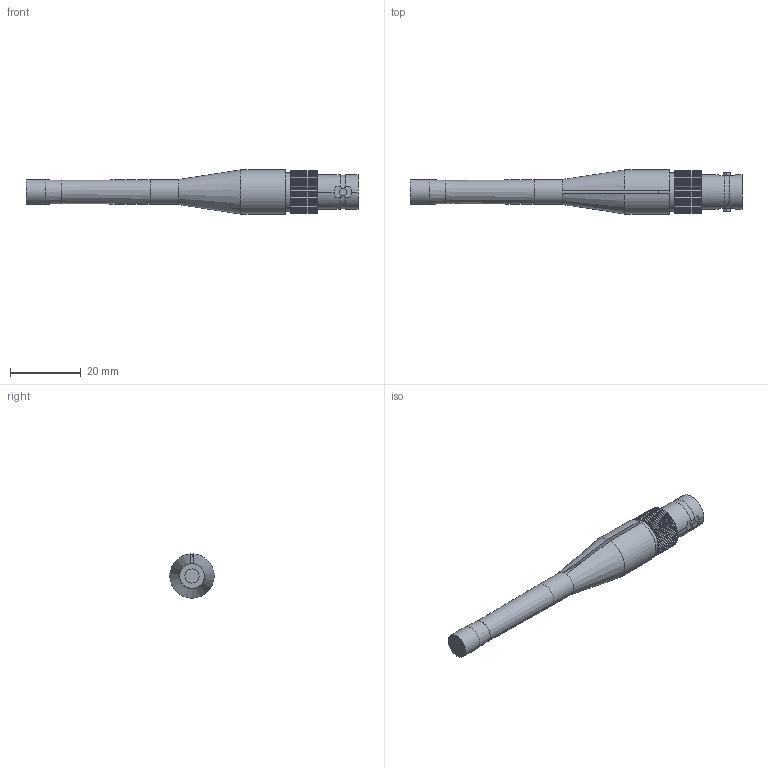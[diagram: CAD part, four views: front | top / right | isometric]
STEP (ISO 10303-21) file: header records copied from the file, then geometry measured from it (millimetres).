
FILE_DESCRIPTION(/* description */ ('Microphone MI17'),/* implementation_level */ '2;1');
FILE_NAME(/* name */ 'K:\Projekte\+Projekte\+ROGA-Instruments\2230027 Mikrofone\Mikrofon MI17\3D-Doku\Mikrofon MI17.stp',/* time_stamp */ '2022-01-29T12:08:10+01:00',/* author */ ('Ralf.Viertelmeister'),/* organization */ (''),/* preprocessor_version */ 'ST-DEVELOPER v18.1',/* originating_system */ 'Autodesk Inventor 2021',/* authorisation */ '');
FILE_SCHEMA (('AUTOMOTIVE_DESIGN { 1 0 10303 214 3 1 1 }'));
Length unit declared in the file: millimetre
Products named in the file (6): Mikrofon MI17; 1-1478204-0; Rändel; Isolator-MI19; Kopf; Hülse-MI19
Assembly tree (5 placements, depth 2):
  Mikrofon MI17
    1-1478204-0
    Rändel
    Isolator-MI19
    Kopf
    Hülse-MI19
Bounding box: 93.6 x 12.46 x 12.46 mm (x, y, z)
Volume: 3816.5 mm3; surface area: 6398.2 mm2
Topology: 6 solids, 6 shells, 322 faces, 911 edges, 609 vertices
Faces by surface type: plane 202, cylinder 109, cone 9, torus 2
Full cylindrical faces by diameter (mm): 4 x2, 5 x3, 7 x2, 9.65 x1, 11 x1
Entity records: 10923 total; most frequent: CARTESIAN_POINT 2073, ORIENTED_EDGE 1822, DIRECTION 1811, EDGE_CURVE 911, LINE 617, VECTOR 617, VERTEX_POINT 609, AXIS2_PLACEMENT_3D 597
